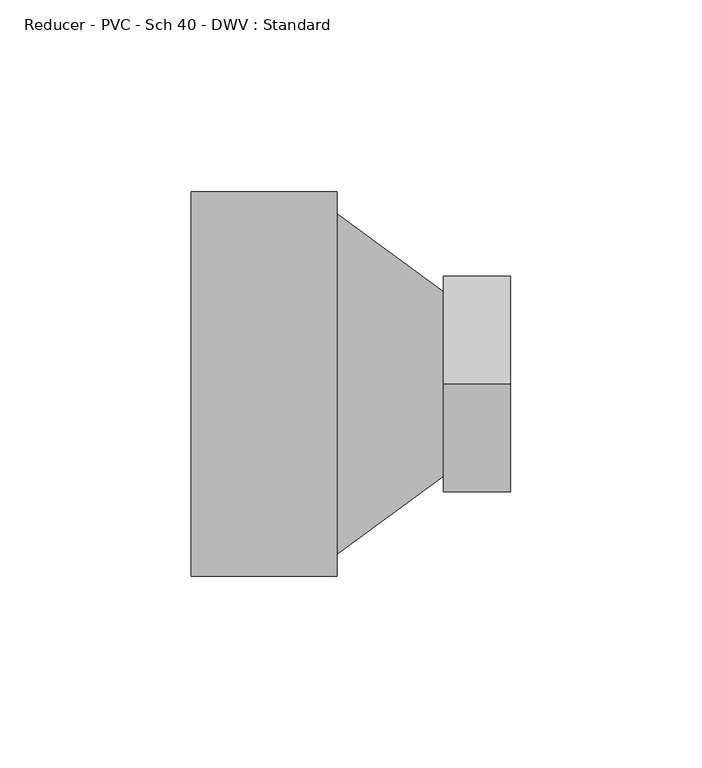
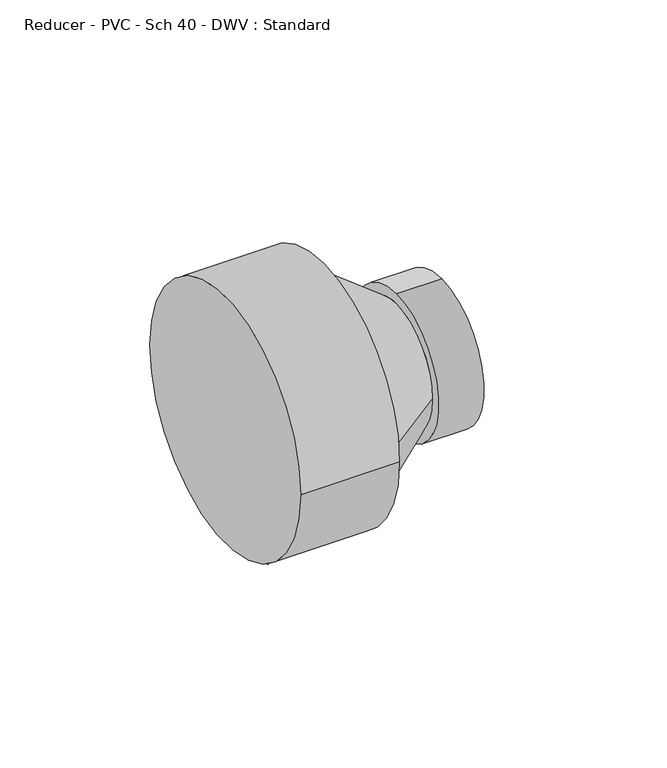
"""IFC4 building model written with IfcOpenShell, lengths in millimetres: pipe fitting geometry, Reducer - PVC - Sch 40 - DWV : Standard."""

from ifc_helpers import new_model, si_unit, frame, origin, place, context, project, spatial, polyline, circle_curve, source, transform, mapped, element, save
from ifc_brep_helpers import plane_surface, cylinder_surface, revolved_surface, advanced_brep


def reducer_pvc_sch_40_dwv_standard_bed7e4d3(model_context):
    return source(origin(), model_context, "Body", "AdvancedBrep", [
        advanced_brep(
        [(0.0, -50.2666, 0.0), (0.0, 50.2666, 0.0), (38.1, -50.2666, 0.0), (38.1, 50.2666, 0.0), (38.1, 44.45, 0.0), (38.1, -44.45, 0.0), (65.8876, 24.13, 0.0), (65.8876, -24.13, 0.0), (65.8876, 0.0, 28.2829), (65.8876, 0.0, -28.2829), (83.3374, 0.0, 28.2829), (83.3374, 0.0, -28.2829)],
        [
            (0, 1, circle_curve(frame((0.0, 0.0, 0.0), z_axis=(-1.0, 0.0, 0.0), x_axis=(0.0, 1.0, 0.0)), 50.2666)),
            (1, 0, circle_curve(frame((0.0, 0.0, 0.0), z_axis=(-1.0, 0.0, 0.0), x_axis=(0.0, 1.0, 0.0)), 50.2666)),
            (2, 3, circle_curve(frame((38.1, 0.0, 0.0), z_axis=(1.0, 0.0, 0.0), x_axis=(0.0, 1.0, 0.0)), 50.2666)),
            (3, 2, circle_curve(frame((38.1, 0.0, 0.0), z_axis=(1.0, 0.0, 0.0), x_axis=(0.0, 1.0, 0.0)), 50.2666)),
            (4, 5, circle_curve(frame((38.1, 0.0, 0.0), z_axis=(-1.0, 0.0, 0.0), x_axis=(0.0, -1.0, 0.0)), 44.45)),
            (5, 4, circle_curve(frame((38.1, 0.0, 0.0), z_axis=(-1.0, 0.0, 0.0), x_axis=(0.0, 1.0, 0.0)), 44.45)),
            (0, 2),
            (3, 1),
            (4, 6),
            (6, 7, circle_curve(frame((65.8876, 0.0, 0.0), z_axis=(-1.0, 0.0, 0.0), x_axis=(0.0, -1.0, 0.0)), 24.13)),
            (7, 5),
            (7, 6, circle_curve(frame((65.8876, 0.0, 0.0), z_axis=(-1.0, 0.0, 0.0), x_axis=(0.0, 1.0, 0.0)), 24.13)),
            (8, 9, circle_curve(frame((65.8876, 0.0, 0.0), z_axis=(-1.0, 0.0, 0.0), x_axis=(0.0, 0.0, -1.0)), 28.2829)),
            (9, 8, circle_curve(frame((65.8876, 0.0, 0.0), z_axis=(-1.0, 0.0, 0.0), x_axis=(0.0, 0.0, -1.0)), 28.2829)),
            (10, 11, circle_curve(frame((83.3374, 0.0, 0.0), z_axis=(1.0, 0.0, 0.0), x_axis=(0.0, 0.0, -1.0)), 28.2829)),
            (11, 10, circle_curve(frame((83.3374, 0.0, 0.0), z_axis=(1.0, 0.0, 0.0), x_axis=(0.0, 0.0, -1.0)), 28.2829)),
            (8, 10),
            (11, 9),
        ],
        [
            plane_surface(frame((0.0, 0.0, 0.0), z_axis=(-1.0, 0.0, 0.0), x_axis=(0.0, 0.0, 1.0))),
            plane_surface(frame((38.1, 0.0, 0.0), z_axis=(1.0, 0.0, 0.0), x_axis=(0.0, 0.0, 1.0))),
            cylinder_surface(frame((0.0, 0.0, 0.0), z_axis=(-1.0, 0.0, 0.0), x_axis=(0.0, 1.0, 0.0)), 50.2666),
            revolved_surface(polyline([(65.8876, 24.129999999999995, 0.0), (38.1, 44.45, 0.0)]), (98.885375, 0.0, 0.0), (-1.0, 0.0, 0.0)),
            plane_surface(frame((65.8876, 0.0, 0.0), z_axis=(-1.0, 0.0, 0.0), x_axis=(0.0, 1.0, 0.0))),
            plane_surface(frame((83.3374, 0.0, 0.0), z_axis=(1.0, 0.0, 0.0), x_axis=(0.0, 1.0, 0.0))),
            cylinder_surface(frame((65.8876, 0.0, 0.0), z_axis=(-1.0, 0.0, 0.0), x_axis=(0.0, 0.0, -1.0)), 28.2829),
        ],
        [
            (0, [[1, 2]]),
            (1, [[3, 4], [5, 6]]),
            (2, [[-1, 7, -4, 8]]),
            (2, [[-2, -8, -3, -7]]),
            (3, [[9, 10, 11, -5]]),
            (3, [[-9, -6, -11, 12]]),
            (4, [[13, 14], [-10, -12]]),
            (5, [[15, 16]]),
            (6, [[-13, 17, -16, 18]]),
            (6, [[-14, -18, -15, -17]]),
        ],
    ),
    ])


if __name__ == "__main__":
    model = new_model("IFC4")
    model_context = context("Model", 3, world=origin())
    ifc_project = project(units=[si_unit("LENGTHUNIT", "METRE", prefix="MILLI")], contexts=[model_context])
    site = spatial("IfcSite", under=ifc_project)
    building = spatial("IfcBuilding", under=site)
    placement = place(None, origin())
    reducer_pvc_sch_40_dwv_standard_shape = reducer_pvc_sch_40_dwv_standard_bed7e4d3(model_context)
    element("IfcPipeFitting", 1, ObjectType="Reducer - PVC - Sch 40 - DWV : Standard", at=placement, inside=building, context=model_context, shape_type="MappedRepresentation", body=[
        mapped(reducer_pvc_sch_40_dwv_standard_shape, transform((0.0, 0.0, 0.0), x_axis=(1.0, 0.0, 0.0), y_axis=(0.0, 1.0, 0.0), z_axis=(0.0, 0.0, 1.0))),
    ])
    save(model, "model.ifc")
